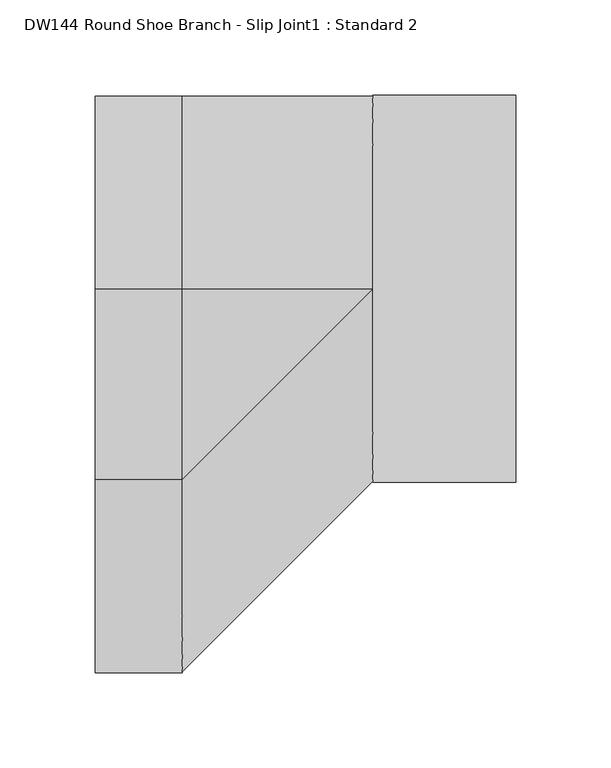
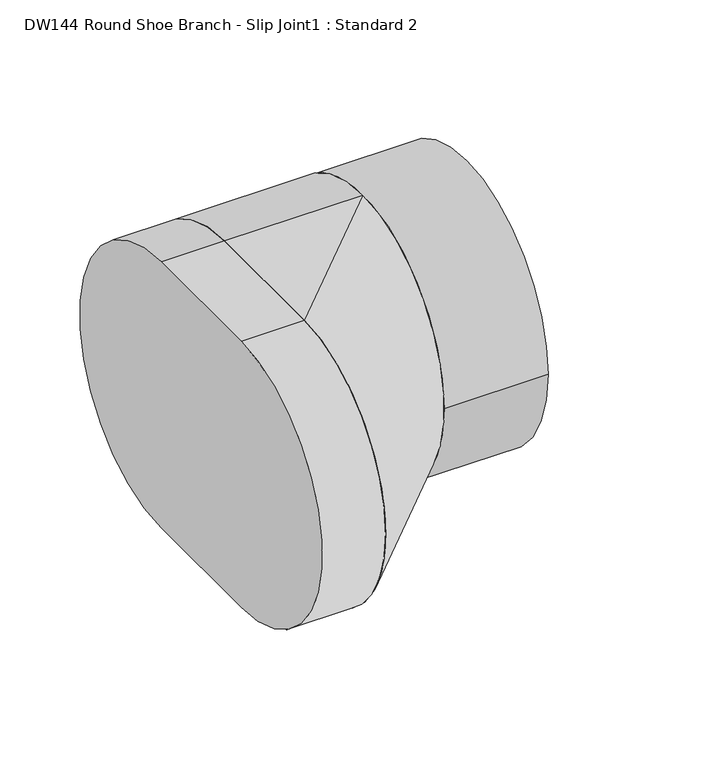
"""IFC4 building model written with IfcOpenShell, lengths in millimetres: duct fitting geometry, DW144 Round Shoe Branch - Slip Joint1 : Standard 2."""

from ifc_helpers import new_model, si_unit, point, frame, frame_2d, origin, origin_2d, place, context, project, spatial, polyline, circle_curve, trimmed, segment, composite_curve, outline, extrude, source, transform, mapped, element, save
from ifc_brep_helpers import plane_surface, cylinder_surface, extruded_surface, advanced_brep


def dw144_round_shoe_branch_slip_joint1_standard_2_e59e9927(model_context):
    return source(origin(), model_context, "Body", "SolidModel", [
        extrude(outline(composite_curve([segment(trimmed(circle_curve(origin_2d(), 101.6), [point((-101.6, 0.0))], [point((101.6, 0.0))], False, "CARTESIAN"), True, "CONTINUOUS"), segment(trimmed(circle_curve(origin_2d(), 101.6), [point((101.6, 0.0))], [point((-101.6, 0.0))], False, "CARTESIAN"), True, "CONTINUOUS")], self_intersect=False)), frame((100.0, 0.0, 0.0), z_axis=(1.0, 0.0, 0.0), x_axis=(0.0, 1.0, 0.0)), (0.0, 0.0, 1.0), 75.0),
        advanced_brep(
        [(100.0, 0.0, -101.6), (100.0, 0.0, 101.6), (0.0, 0.0, -101.6), (0.0, -100.0, -101.6), (0.0, -100.0, 101.6), (0.0, 0.0, 101.6)],
        [
            (0, 1, circle_curve(frame((100.0, 0.0, 0.0), z_axis=(1.0, 0.0, 0.0), x_axis=(0.0, 1.0, 0.0)), 101.6)),
            (1, 0, circle_curve(frame((100.0, 0.0, 0.0), z_axis=(1.0, 0.0, 0.0), x_axis=(0.0, 1.0, 0.0)), 101.6)),
            (2, 3),
            (3, 4, circle_curve(frame((0.0, -100.0, 0.0), z_axis=(-1.0, 0.0, 0.0), x_axis=(0.0, 1.0, 0.0)), 101.6)),
            (4, 5),
            (5, 2, circle_curve(frame((0.0, 0.0, 0.0), z_axis=(-1.0, 0.0, 0.0), x_axis=(0.0, 1.0, 0.0)), 101.6)),
            (5, 1),
            (0, 2),
            (4, 1),
            (3, 0),
        ],
        [
            plane_surface(frame((100.0, 0.0, 0.0), z_axis=(1.0, 0.0, 0.0), x_axis=(0.0, 1.0, 0.0))),
            plane_surface(frame((0.0, -50.0, 0.0), z_axis=(-1.0, 0.0, 0.0), x_axis=(0.0, 1.0, 0.0))),
            cylinder_surface(frame((0.0, 0.0, 0.0), z_axis=(1.0, 0.0, 0.0), x_axis=(0.0, 1.0, 0.0)), 101.6),
            plane_surface(frame((0.0, -50.0, 101.6), z_axis=(0.0, 0.0, 1.0), x_axis=(0.0, -1.0, 0.0))),
            extruded_surface(trimmed(circle_curve(frame((0.0, -100.0, 0.0), z_axis=(1.0, 0.0, 0.0), x_axis=(0.0, 1.0, 0.0)), 101.6), [point((0.0, -100.0, 101.6))], [point((0.0, -100.0, -101.6))], True, "CARTESIAN"), (100.0, 100.0, 0.0), 141.4213562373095),
            plane_surface(frame((0.0, -50.0, -101.6), z_axis=(0.0, 0.0, -1.0), x_axis=(0.0, 1.0, 0.0))),
        ],
        [
            (0, [[1, 2]]),
            (1, [[3, 4, 5, 6]]),
            (2, [[-6, 7, -1, 8]]),
            (3, [[-5, 9, -7]]),
            (4, [[-4, 10, -2, -9]]),
            (5, [[-3, -8, -10]]),
        ],
    ),
        extrude(outline(composite_curve([segment(polyline([(0.0, -101.6), (-100.0, -101.6)]), True, "CONTINUOUS"), segment(trimmed(circle_curve(frame_2d((-100.0, 0.0)), 101.6), [point((-100.0, -101.6))], [point((-100.0, 101.6))], False, "CARTESIAN"), True, "CONTINUOUS"), segment(polyline([(-100.0, 101.6), (0.0, 101.6)]), True, "CONTINUOUS"), segment(trimmed(circle_curve(origin_2d(), 101.6), [point((0.0, 101.6))], [point((0.0, -101.6))], False, "CARTESIAN"), True, "CONTINUOUS")], self_intersect=False)), frame((-45.7445614, 0.0, 0.0), z_axis=(1.0, 0.0, 0.0), x_axis=(0.0, 1.0, 0.0)), (0.0, 0.0, 1.0), 45.7445614),
    ])


if __name__ == "__main__":
    model = new_model("IFC4")
    model_context = context("Model", 3, world=origin())
    ifc_project = project(units=[si_unit("LENGTHUNIT", "METRE", prefix="MILLI")], contexts=[model_context])
    site = spatial("IfcSite", under=ifc_project)
    building = spatial("IfcBuilding", under=site)
    placement = place(None, origin())
    dw144_round_shoe_branch_slip_joint1_standard_2_shape = dw144_round_shoe_branch_slip_joint1_standard_2_e59e9927(model_context)
    element("IfcDuctFitting", 1, ObjectType="DW144 Round Shoe Branch - Slip Joint1 : Standard 2", at=placement, inside=building, context=model_context, shape_type="MappedRepresentation", body=[
        mapped(dw144_round_shoe_branch_slip_joint1_standard_2_shape, transform((0.0, 0.0, 0.0), x_axis=(1.0, 0.0, 0.0), y_axis=(0.0, 1.0, 0.0), z_axis=(0.0, 0.0, 1.0))),
    ])
    save(model, "model.ifc")
